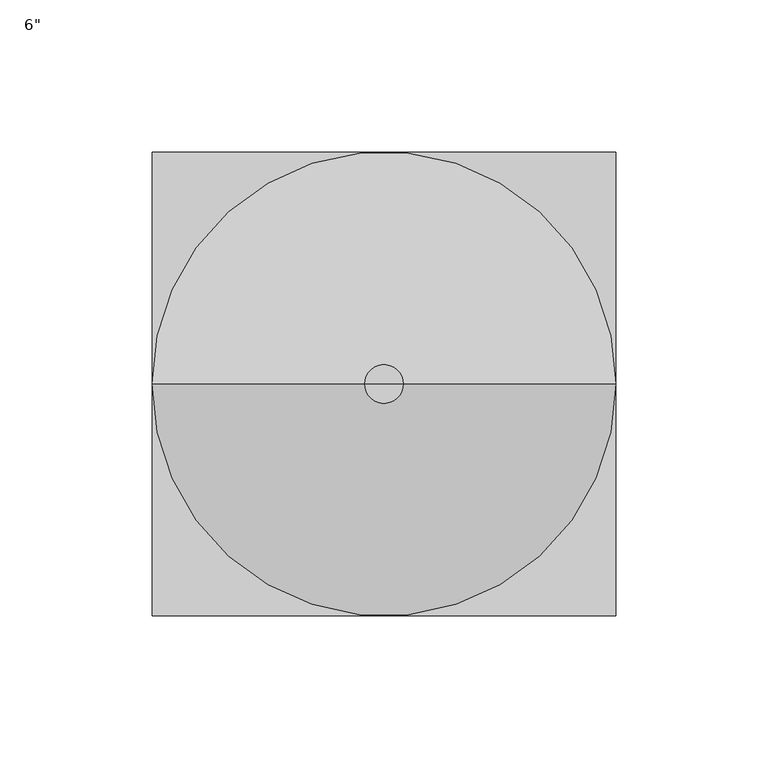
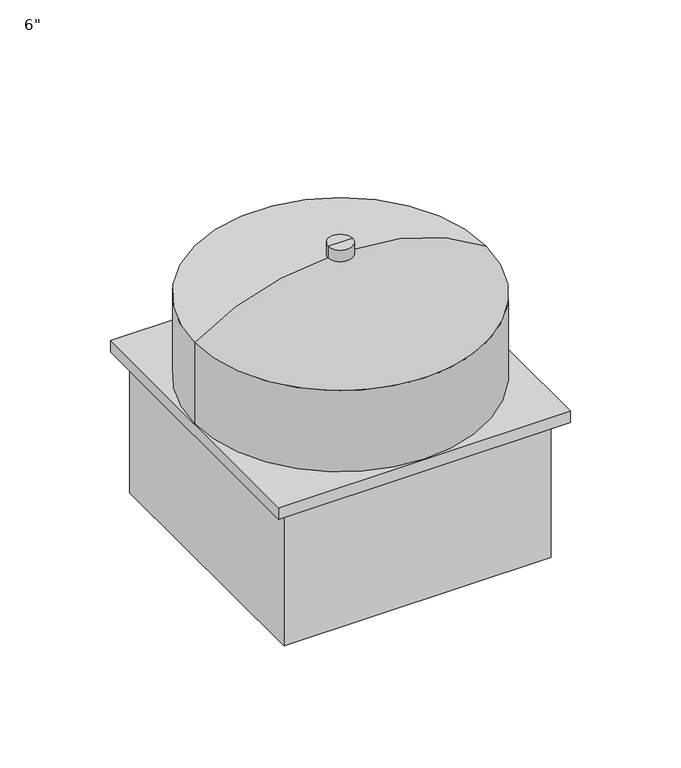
"""IFC4 building model written with IfcOpenShell, lengths in millimetres: alarm geometry."""

import ifcopenshell
import ifcopenshell.guid

model = None  # the IFC model being written
_history = None  # IfcOwnerHistory: only IFC2X3 demands one
_inside = {}  # id of a spatial element -> (the spatial element, [elements in it])
_under = {}  # id of a project, library or spatial element -> (it, [spatial elements below it])
_declared = {}  # id of a project -> (the project, [libraries it declares])
_typed = {}  # id of a type object -> (the type object, [elements of that type])
_made_of = {}  # id of a material, layer set ... -> (it, [elements and type objects made of it])


def new_model(schema):
    """Start an empty IFC model of exactly this schema.

    Asked for "IFC4X3", IfcOpenShell would pick the latest addendum, in which some entities
    have other attributes; the version numbers below select the first issue.
    IFC2X3 requires an IfcOwnerHistory on every rooted entity: one is made here for all.
    """
    global model, _history
    if schema == "IFC4X3":
        model = ifcopenshell.file(schema_version=(4, 3, 0, 0))
    else:
        model = ifcopenshell.file(schema=schema)
    _inside.clear()
    _under.clear()
    _declared.clear()
    _typed.clear()
    _made_of.clear()
    _history = None
    if model.schema == "IFC2X3":
        org = make("IfcOrganization", Name="unknown")
        user = make(
            "IfcPersonAndOrganization",
            ThePerson=make("IfcPerson", FamilyName="unknown"),
            TheOrganization=org,
        )
        app = make(
            "IfcApplication",
            ApplicationDeveloper=org,
            Version="unknown",
            ApplicationFullName="unknown",
            ApplicationIdentifier="unknown",
        )
        _history = make(
            "IfcOwnerHistory",
            OwningUser=user,
            OwningApplication=app,
            ChangeAction="ADDED",
            CreationDate=0,
        )
    return model


def make(cls, **values):
    """One entity of the class cls with the attributes given. An attribute that is None is left unset."""
    return model.create_entity(
        cls, **{name: value for name, value in values.items() if value is not None}
    )


def rooted(cls, **values):
    """An entity with a GlobalId (a new one), such as an element, a storey or a relation."""
    return make(cls, GlobalId=ifcopenshell.guid.new(), OwnerHistory=_history, **values)


def si_unit(unit_type, name, prefix=None):
    """IfcSIUnit, for example si_unit("LENGTHUNIT", "METRE", prefix="MILLI")."""
    return make("IfcSIUnit", UnitType=unit_type, Prefix=prefix, Name=name)


def assignment(units):
    """IfcUnitAssignment: the units of a project."""
    return None if units is None else make("IfcUnitAssignment", Units=units)


def point(xyz):
    """IfcCartesianPoint."""
    return None if xyz is None else make("IfcCartesianPoint", Coordinates=xyz)


def direction(xyz):
    """IfcDirection."""
    return None if xyz is None else make("IfcDirection", DirectionRatios=xyz)


def frame(location, z_axis=None, x_axis=None):
    """IfcAxis2Placement3D, a coordinate frame: its origin and axes. An axis left out is left unset."""
    return make(
        "IfcAxis2Placement3D",
        Location=point(location),
        Axis=direction(z_axis),
        RefDirection=direction(x_axis),
    )


def origin():
    """The frame at (0, 0, 0) with its axes left unset."""
    return frame((0.0, 0.0, 0.0))


def origin_with_axes():
    """The frame at (0, 0, 0) with the z axis (0, 0, 1) and the x axis (1, 0, 0) written out."""
    return frame((0.0, 0.0, 0.0), z_axis=(0.0, 0.0, 1.0), x_axis=(1.0, 0.0, 0.0))


def place(relative_to, where):
    """IfcLocalPlacement: puts the frame where relative to a parent placement (None: the world)."""
    return make(
        "IfcLocalPlacement", PlacementRelTo=relative_to, RelativePlacement=where
    )


def context(
    kind, dimensions, precision=None, world=None, true_north=None, identifier=None
):
    """IfcGeometricRepresentationContext, for example the 3D "Model" context."""
    return make(
        "IfcGeometricRepresentationContext",
        ContextIdentifier=identifier,
        ContextType=kind,
        CoordinateSpaceDimension=dimensions,
        Precision=precision,
        WorldCoordinateSystem=world,
        TrueNorth=true_north,
    )


def project(units=None, contexts=None):
    """IfcProject with its units and contexts."""
    return rooted(
        "IfcProject",
        Name="project",
        RepresentationContexts=contexts,
        UnitsInContext=assignment(units),
    )


def spatial(cls, under=None, at=None, **own):
    """A site, building, storey or space (cls), placed at a placement, below another one or the project."""
    s = rooted(cls, ObjectPlacement=at, **own)
    if under is not None:
        _under.setdefault(under.id(), (under, []))[1].append(s)
    return s


def polyline(points):
    """IfcPolyline through the points."""
    return make("IfcPolyline", Points=[point(p) for p in points])


def circle_curve(where, radius):
    """IfcCircle in the frame where."""
    return make("IfcCircle", Position=where, Radius=radius)


def ellipse_curve(where, semi_axis1, semi_axis2):
    """IfcEllipse in the frame where."""
    return make(
        "IfcEllipse", Position=where, SemiAxis1=semi_axis1, SemiAxis2=semi_axis2
    )


def trimmed(basis, trim1, trim2, sense, master):
    """IfcTrimmedCurve: the piece of a basis curve between two trims."""
    return make(
        "IfcTrimmedCurve",
        BasisCurve=basis,
        Trim1=trim1,
        Trim2=trim2,
        SenseAgreement=sense,
        MasterRepresentation=master,
    )


def outline(outer, holes=None, kind="AREA"):
    """IfcArbitraryClosedProfileDef: a profile drawn as a closed curve; with holes, ...WithVoids."""
    if holes is None:
        return make("IfcArbitraryClosedProfileDef", ProfileType=kind, OuterCurve=outer)
    return make(
        "IfcArbitraryProfileDefWithVoids",
        ProfileType=kind,
        OuterCurve=outer,
        InnerCurves=holes,
    )


def extrude(swept, where, along, depth):
    """IfcExtrudedAreaSolid: the profile swept, set in the frame where, extruded along a direction by depth."""
    return make(
        "IfcExtrudedAreaSolid",
        SweptArea=swept,
        Position=where,
        ExtrudedDirection=direction(along),
        Depth=depth,
    )


def shape(context_of_items, identifier, shape_type, items):
    """IfcShapeRepresentation: the items that make up one representation, for example the "Body"."""
    return make(
        "IfcShapeRepresentation",
        ContextOfItems=context_of_items,
        RepresentationIdentifier=identifier,
        RepresentationType=shape_type,
        Items=items,
    )


def source(mapping_origin, context_of_items, identifier, shape_type, items):
    """IfcRepresentationMap: a shape defined once, which mapped items show again and again."""
    return make(
        "IfcRepresentationMap",
        MappingOrigin=mapping_origin,
        MappedRepresentation=shape(context_of_items, identifier, shape_type, items),
    )


def transform(
    local_origin,
    x_axis=None,
    y_axis=None,
    z_axis=None,
    scale=None,
    scale2=None,
    scale3=None,
    uniform=True,
):
    """IfcCartesianTransformationOperator3D, or its non-uniform kind. x_axis, y_axis, z_axis: its Axis1, 2, 3."""
    if uniform:
        return make(
            "IfcCartesianTransformationOperator3D",
            Axis1=direction(x_axis),
            Axis2=direction(y_axis),
            LocalOrigin=point(local_origin),
            Scale=scale,
            Axis3=direction(z_axis),
        )
    return make(
        "IfcCartesianTransformationOperator3DnonUniform",
        Axis1=direction(x_axis),
        Axis2=direction(y_axis),
        LocalOrigin=point(local_origin),
        Scale=scale,
        Axis3=direction(z_axis),
        Scale2=scale2,
        Scale3=scale3,
    )


def mapped(mapping_source, mapping_target):
    """IfcMappedItem: shows the shape of a source again, moved by a transform."""
    return make(
        "IfcMappedItem", MappingSource=mapping_source, MappingTarget=mapping_target
    )


def made_of(thing, what):
    """Note that an element or type object is made of a material, layer set ...; save() writes the relation."""
    if what is not None:
        _made_of.setdefault(what.id(), (what, []))[1].append(thing)
    return thing


def element(
    cls,
    number,
    at=None,
    inside=None,
    cuts=None,
    type_object=None,
    material=None,
    context=None,
    identifier="Body",
    shape_type=None,
    held_by="IfcProductDefinitionShape",
    body=None,
    shapes=None,
    **own,
):
    """One element of the class cls, such as IfcWall. Its Tag is "e" and its number.

    at: its placement. inside: the storey or other place that contains it. cuts: it is an
    opening in that element (IfcRelVoidsElement). A single representation is given by context,
    identifier, shape_type and body (its items); several are given by shapes. held_by: the class
    of the entity that holds the representations. save() writes the other relations.
    """
    e = rooted(cls, Tag="e%d" % number, ObjectPlacement=at, **own)
    if body is not None:
        shapes = [shape(context, identifier, shape_type, body)]
    if shapes is not None:
        e.Representation = make(held_by, Representations=shapes)
    if inside is not None:
        _inside.setdefault(inside.id(), (inside, []))[1].append(e)
    if cuts is not None:
        rooted(
            "IfcRelVoidsElement", RelatingBuildingElement=cuts, RelatedOpeningElement=e
        )
    if type_object is not None:
        _typed.setdefault(type_object.id(), (type_object, []))[1].append(e)
    return made_of(e, material)


def aggregate(whole, parts):
    """IfcRelAggregates: a whole, such as a stair, and the parts it consists of."""
    return rooted("IfcRelAggregates", RelatingObject=whole, RelatedObjects=parts)


def save(model, path):
    """Write the relations noted so far, then the file.

    IfcRelAggregates (storeys below a building ...), IfcRelContainedInSpatialStructure (elements
    in a storey), IfcRelDefinesByType, IfcRelAssociatesMaterial and IfcRelDeclares: one each for
    every whole, place, type object, material and project.
    """
    for whole, parts in _under.values():
        aggregate(whole, parts)
    for where, things in _inside.values():
        rooted(
            "IfcRelContainedInSpatialStructure",
            RelatedElements=things,
            RelatingStructure=where,
        )
    for kind, things in _typed.values():
        rooted("IfcRelDefinesByType", RelatedObjects=things, RelatingType=kind)
    for what, things in _made_of.values():
        rooted("IfcRelAssociatesMaterial", RelatedObjects=things, RelatingMaterial=what)
    for by, libraries in _declared.values():
        rooted("IfcRelDeclares", RelatingContext=by, RelatedDefinitions=libraries)
    model.write(path)


def plane_surface(at):
    """IfcPlane: the flat surface through the origin of the frame at, square to its z axis."""
    return make("IfcPlane", Position=at)


def cylinder_surface(at, radius):
    """IfcCylindricalSurface: all points at the distance radius from the z axis of the frame at."""
    return make("IfcCylindricalSurface", Position=at, Radius=radius)


def revolved_surface(curve, axis_point, axis_direction):
    """IfcSurfaceOfRevolution: the curve turned about the line through axis_point along axis_direction."""
    return make(
        "IfcSurfaceOfRevolution",
        SweptCurve=make("IfcArbitraryOpenProfileDef", ProfileType="CURVE", Curve=curve),
        AxisPosition=make("IfcAxis1Placement", Location=point(axis_point), Axis=direction(axis_direction)),
    )


def advanced_brep(points, edges, surfaces, faces):
    """IfcAdvancedBrep: a solid bounded by faces that lie on surfaces and meet in shared edges.

    An edge is (start, end): straight between two places in points (the first is 0);
    or (start, end, curve); or (start, end, curve, False) where it runs against its curve.
    A face is (place in surfaces, loops), or (place, loops, False) where it looks against
    its surface's normal. A loop lists edges by number (the first is 1), with a minus sign
    where the edge is run from its end to its start. The first loop is the outer one.
    """
    corners = [point(p) for p in points]
    vertices = [make("IfcVertexPoint", VertexGeometry=c) for c in corners]
    made = []
    for start, end, *more in edges:
        made.append(
            make(
                "IfcEdgeCurve",
                EdgeStart=vertices[start],
                EdgeEnd=vertices[end],
                EdgeGeometry=more[0] if more else make("IfcPolyline", Points=[corners[start], corners[end]]),
                SameSense=more[1] if len(more) > 1 else True,
            )
        )
    hull = []
    for where, loops, *sense in faces:
        bounds = []
        for j, loop in enumerate(loops):
            ring = [make("IfcOrientedEdge", EdgeElement=made[abs(k) - 1], Orientation=k > 0) for k in loop]
            bounds.append(
                make(
                    "IfcFaceOuterBound" if j == 0 else "IfcFaceBound",
                    Bound=make("IfcEdgeLoop", EdgeList=ring),
                    Orientation=True,
                )
            )
        hull.append(make("IfcAdvancedFace", Bounds=bounds, FaceSurface=surfaces[where], SameSense=sense[0] if sense else True))
    return make("IfcAdvancedBrep", Outer=make("IfcClosedShell", CfsFaces=hull))


def alarm_8b0aba48(model_context):
    return source(origin(), model_context, "Body", "SolidModel", [
        extrude(outline(polyline([(69.85, 69.85), (69.85, -69.85), (-69.85, -69.85), (-69.85, 69.85), (69.85, 69.85)])), origin_with_axes(), (0.0, 0.0, 1.0), 73.025),
        advanced_brep(
        [(0.0, 0.0, 156.3624), (6.35, 0.0, 156.3624), (-6.35, 0.0, 156.3624), (-6.35, 0.0, 150.0124), (6.35, 0.0, 150.0124), (0.0, 0.0, 150.0124)],
        [
            (0, 1),
            (1, 2, circle_curve(frame((0.0, 0.0, 156.3624), z_axis=(0.0, 0.0, 1.0), x_axis=(1.0, 0.0, 0.0)), 6.35)),
            (2, 0),
            (2, 1, circle_curve(frame((0.0, 0.0, 156.3624), z_axis=(0.0, 0.0, 1.0), x_axis=(1.0, 0.0, 0.0)), 6.35)),
            (3, 4, circle_curve(frame((0.0, 0.0, 150.0124), z_axis=(0.0, 0.0, -1.0), x_axis=(1.0, 0.0, 0.0)), 6.35)),
            (4, 5),
            (5, 3),
            (4, 3, circle_curve(frame((0.0, 0.0, 150.0124), z_axis=(0.0, 0.0, -1.0), x_axis=(1.0, 0.0, 0.0)), 6.35)),
            (1, 4),
            (3, 2),
        ],
        [
            plane_surface(frame((0.0, 0.0, 156.3624), z_axis=(0.0, 0.0, 1.0), x_axis=(1.0, 0.0, 0.0))),
            plane_surface(frame((0.0, 0.0, 150.0124), z_axis=(0.0, 0.0, -1.0), x_axis=(1.0, 0.0, 0.0))),
            cylinder_surface(frame((0.0, 0.0, 2575.7079012), z_axis=(0.0, 0.0, 1.0), x_axis=(1.0, 0.0, 0.0)), 6.35),
        ],
        [
            (0, [[1, 2, 3]]),
            (0, [[-3, 4, -1]]),
            (1, [[5, 6, 7]]),
            (1, [[8, -7, -6]]),
            (2, [[-2, 9, -5, 10]]),
            (2, [[-4, -10, -8, -9]]),
        ],
    ),
        extrude(outline(polyline([(76.2, 76.2), (76.2, -76.2), (-76.2, -76.2), (-76.2, 76.2), (76.2, 76.2)])), frame((0.0, 0.0, 76.2), z_axis=(0.0, 0.0, 1.0), x_axis=(1.0, 0.0, 0.0)), (0.0, 0.0, 1.0), 6.35),
        advanced_brep(
        [(-76.2, 0.0, 127.6399083), (76.2, 0.0, 127.6399083), (76.2, 0.0, 82.55), (-76.2, 0.0, 82.55), (0.0, 0.0, 82.55), (0.0, 0.0, 150.0124), (6.35, 0.0, 150.0124), (-6.35, 0.0, 150.0124)],
        [
            (0, 1, circle_curve(frame((0.0, 0.0, 127.6399083), z_axis=(0.0, 0.0, -1.0), x_axis=(1.0, 0.0, 0.0)), 76.2)),
            (1, 2),
            (2, 3, circle_curve(frame((0.0, 0.0, 82.55), z_axis=(0.0, 0.0, 1.0), x_axis=(1.0, 0.0, 0.0)), 76.2)),
            (3, 0),
            (1, 0, circle_curve(frame((0.0, 0.0, 127.6399083), z_axis=(0.0, 0.0, -1.0), x_axis=(1.0, 0.0, 0.0)), 76.2)),
            (3, 2, circle_curve(frame((0.0, 0.0, 82.55), z_axis=(0.0, 0.0, 1.0), x_axis=(1.0, 0.0, 0.0)), 76.2)),
            (2, 4),
            (4, 3),
            (5, 6),
            (6, 7, circle_curve(frame((0.0, 0.0, 150.0124), z_axis=(0.0, 0.0, 1.0), x_axis=(1.0, 0.0, 0.0)), 6.35)),
            (7, 5),
            (7, 6, circle_curve(frame((0.0, 0.0, 150.0124), z_axis=(0.0, 0.0, 1.0), x_axis=(1.0, 0.0, 0.0)), 6.35)),
            (6, 1, circle_curve(frame((6.35, 0.0, 29.7854948), z_axis=(0.0, 1.0, 0.0), x_axis=(1.0, 0.0, 0.0)), 120.2269052)),
            (0, 7, circle_curve(frame((-6.35, 0.0, 29.7854948), z_axis=(0.0, 1.0, 0.0), x_axis=(-1.0, 0.0, 0.0)), 120.2269052)),
        ],
        [
            cylinder_surface(frame((0.0, 0.0, 2575.7079012), z_axis=(0.0, 0.0, 1.0), x_axis=(1.0, 0.0, 0.0)), 76.2),
            plane_surface(frame((0.0, 0.0, 82.55), z_axis=(0.0, 0.0, -1.0), x_axis=(1.0, 0.0, 0.0))),
            plane_surface(frame((0.0, 0.0, 150.0124), z_axis=(0.0, 0.0, 1.0), x_axis=(1.0, 0.0, 0.0))),
            revolved_surface(trimmed(ellipse_curve(frame((6.35, 0.0, 29.7854948), z_axis=(0.0, -1.0, 0.0), x_axis=(1.0, 0.0, 0.0)), 120.2269052, 120.2269052), [point((76.2, 0.0, 127.6399083))], [point((6.35, 0.0, 150.0124))], True, "CARTESIAN"), (0.0, 0.0, 2575.7079012), (0.0, 0.0, 1.0)),
        ],
        [
            (0, [[1, 2, 3, 4]]),
            (0, [[5, -4, 6, -2]]),
            (1, [[-3, 7, 8]]),
            (1, [[-6, -8, -7]]),
            (2, [[9, 10, 11]]),
            (2, [[-11, 12, -9]]),
            (3, [[-10, 13, -1, 14]]),
            (3, [[-12, -14, -5, -13]]),
        ],
    ),
    ])


if __name__ == "__main__":
    model = new_model("IFC4")
    model_context = context("Model", 3, world=origin())
    ifc_project = project(units=[si_unit("LENGTHUNIT", "METRE", prefix="MILLI")], contexts=[model_context])
    site = spatial("IfcSite", under=ifc_project)
    building = spatial("IfcBuilding", under=site)
    placement = place(None, origin())
    alarm_shape = alarm_8b0aba48(model_context)
    element("IfcAlarm", 1, ObjectType="Bell-Vibrating-Kidde_Fire_Systems-439D : 6\"", at=placement, inside=building, context=model_context, shape_type="MappedRepresentation", body=[
        mapped(alarm_shape, transform((0.0, 0.0, 0.0), x_axis=(1.0, 0.0, 0.0), y_axis=(0.0, 1.0, 0.0), z_axis=(0.0, 0.0, 1.0))),
    ])
    save(model, "model.ifc")
